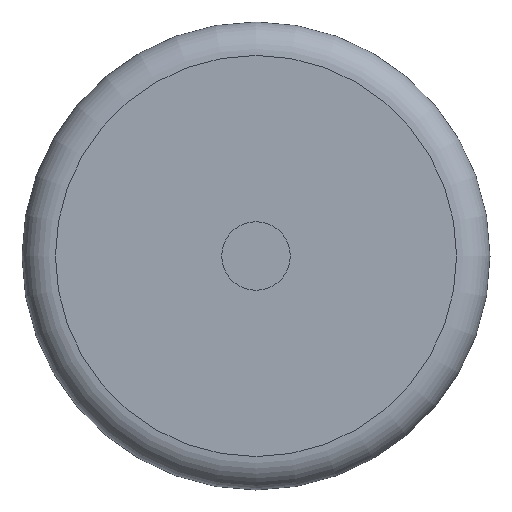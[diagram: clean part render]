
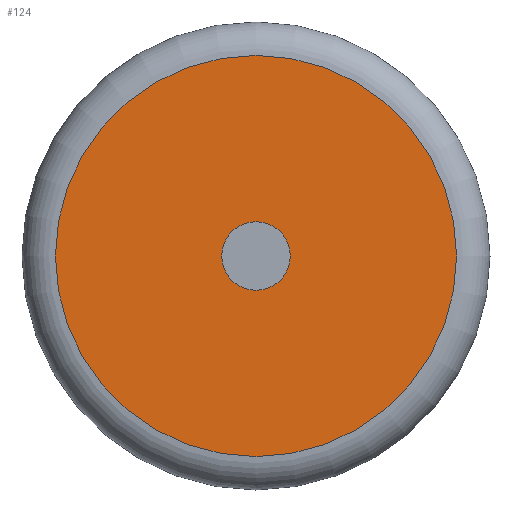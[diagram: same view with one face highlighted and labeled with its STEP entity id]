
A CAD part, left-side view. The second image highlights one B-rep face of the part: STEP entity #124.
In plain terms, the highlighted planar face has unit normal (-1, 0, 0).
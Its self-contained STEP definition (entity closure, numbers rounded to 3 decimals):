
#32=ORIENTED_EDGE('',*,*,#51,.T.);
#33=ORIENTED_EDGE('',*,*,#50,.F.);
#50=EDGE_CURVE('',#60,#60,#70,.T.);
#51=EDGE_CURVE('',#61,#61,#71,.T.);
#60=VERTEX_POINT('',#221);
#61=VERTEX_POINT('',#224);
#70=CIRCLE('',#151,20.5);
#71=CIRCLE('',#153,120.);
#82=EDGE_LOOP('',(#32));
#83=EDGE_LOOP('',(#33));
#102=FACE_BOUND('',#82,.T.);
#103=FACE_BOUND('',#83,.T.);
#119=PLANE('',#152);
#124=ADVANCED_FACE('',(#102,#103),#119,.T.);
#151=AXIS2_PLACEMENT_3D('',#220,#180,#181);
#152=AXIS2_PLACEMENT_3D('',#222,#182,#183);
#153=AXIS2_PLACEMENT_3D('',#223,#184,#185);
#180=DIRECTION('',(-1.,0.,0.));
#181=DIRECTION('',(0.,0.,1.));
#182=DIRECTION('',(-1.,0.,0.));
#183=DIRECTION('',(0.,0.,1.));
#184=DIRECTION('',(-1.,0.,0.));
#185=DIRECTION('',(0.,0.,1.));
#220=CARTESIAN_POINT('',(-88.5,0.,0.));
#221=CARTESIAN_POINT('',(-88.5,0.,20.5));
#222=CARTESIAN_POINT('',(-88.5,0.,120.));
#223=CARTESIAN_POINT('',(-88.5,0.,0.));
#224=CARTESIAN_POINT('',(-88.5,0.,120.));
